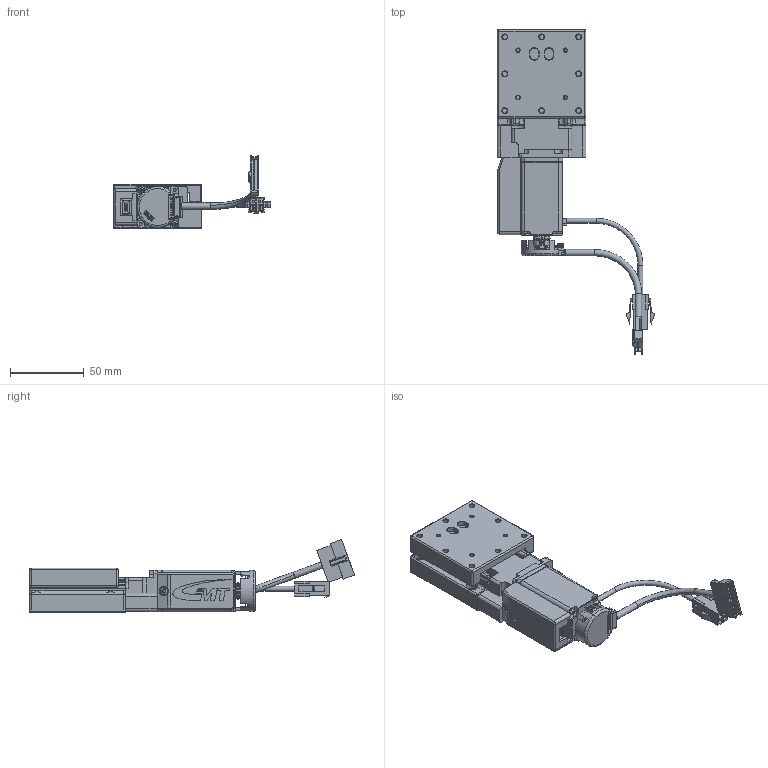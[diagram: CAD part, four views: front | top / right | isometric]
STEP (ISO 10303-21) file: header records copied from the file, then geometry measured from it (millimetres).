
FILE_DESCRIPTION(/* description */ (''),/* implementation_level */ '2;1');
FILE_NAME(/* name */ 'CXS6020-Ezi-Servo-PR-28M',/* time_stamp */ '2023-02-09T21:10:43+01:00',/* author */ (''),/* organization */ ('GMT Europe'),/* preprocessor_version */ 'ST-DEVELOPER v16.7',/* originating_system */ 'Solid Edge',/* authorisation */ 'Unknown');
FILE_SCHEMA (('AUTOMOTIVE_DESIGN {1 0 10303 214 3 1 1}'));
Products named in the file (24): CXS6020-Ezi-Servo-PR-28M; CXS6020; Group1^CXS6020-S-模糊化; Group3^CXS6020-S-模糊化; Motorflansch-ix-001; ISO 4762_M2,5x5_8.8; ISO 4762_M3x10_8.8; Ezi-SERVO-Plus-R; 馨檜蝶; SW3dPS-R28i_R28i_Hub; SW3dPS-R28i_R28i_Disk; SW3dPS-R28i_R28i_PCB; SW3dPS-R28i_Connector; SW3dPS-R28i_R28i_BaseStandoff; SW3dPS-R28i_R28i_LeadFrame; SW3dPS-R28i_R28i_Cover; encoder_cable_28; 馨檜綰; Power_Cable_20; M11-MO-028-03-R01; Gehäuse-ix-001; Platine-ix-001; PCB ix Industrial-001; 09452819001
Assembly tree (23 placements, depth 4):
  CXS6020-Ezi-Servo-PR-28M
    CXS6020
      Group1^CXS6020-S-模糊化
      Group3^CXS6020-S-模糊化
    Motorflansch-ix-001
    ISO 4762_M2,5x5_8.8
    ISO 4762_M3x10_8.8
    Ezi-SERVO-Plus-R
      馨檜蝶
        SW3dPS-R28i_R28i_Hub
        SW3dPS-R28i_R28i_Disk
        SW3dPS-R28i_R28i_PCB
        SW3dPS-R28i_Connector
        SW3dPS-R28i_R28i_BaseStandoff
        SW3dPS-R28i_R28i_LeadFrame
        SW3dPS-R28i_R28i_Cover
        encoder_cable_28
      馨檜綰
        Power_Cable_20
      M11-MO-028-03-R01
    Gehäuse-ix-001
    Platine-ix-001
      PCB ix Industrial-001
      09452819001
Bounding box: 106.51 x 220.19 x 49.45 mm (x, y, z)
Volume: 156630.8 mm3; surface area: 74854.3 mm2
Topology: 22 solids, 22 shells, 4430 faces, 12146 edges, 8002 vertices
Faces by surface type: plane 3120, cylinder 838, bspline 300, cone 84, torus 60, sphere 28
Full cylindrical faces by diameter (mm): 0.9 x54, 1 x15, 1.4 x54, 1.45 x2, 1.5 x4, 1.57 x1, 1.6 x1, 2.013 x2, 2.05 x4, 2.1 x2, 2.459 x1, 2.5 x5, 2.8 x4, 3 x2, 3.172 x1, 3.2 x1, 3.3 x10, 3.5 x1, 3.8 x1, 4.3 x2, 4.5 x4, 4.68 x1, 5 x2, 5.5 x2, 6 x3, 6.2 x1, 7.8 x4, 8 x2, 8.2 x1, 8.5 x1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
Entity records: 161252 total; most frequent: CARTESIAN_POINT 40691, ORIENTED_EDGE 23516, DIRECTION 21101, EDGE_CURVE 11758, LINE 9029, VECTOR 9029, VERTEX_POINT 7913, AXIS2_PLACEMENT_3D 6036
